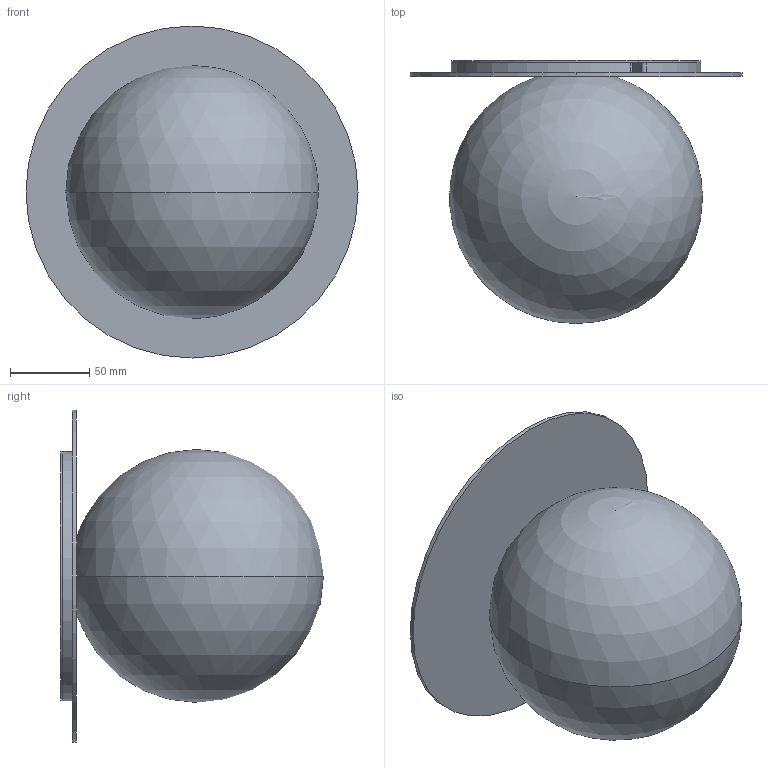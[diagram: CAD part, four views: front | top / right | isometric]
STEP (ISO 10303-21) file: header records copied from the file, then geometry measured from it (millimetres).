
FILE_DESCRIPTION (( 'STEP AP203' ), '1' );
FILE_NAME ('LTKI1601XXXXXXX-PER 3D.STEP', '2025-06-25T07:21:38', ( '' ), ( '' ), 'SwSTEP 2.0', 'SolidWorks 2024', '' );
FILE_SCHEMA (( 'CONFIG_CONTROL_DESIGN' ));
Length unit declared in the file: millimetre
Products named in the file (5): LTKI1601XXXXXXX-PER 3D; WSCM2C0200-0700-03_WSCM2C0200-0700-03; WSCM2C0217-0100-01; WSCM2C0218-0100-02; WSVAXXX0160BC7XX00
Assembly tree (4 placements, depth 2):
  LTKI1601XXXXXXX-PER 3D
    WSCM2C0200-0700-03_WSCM2C0200-0700-03
    WSVAXXX0160BC7XX00
    WSCM2C0217-0100-01
    WSCM2C0218-0100-02
Bounding box: 210 x 166.29 x 210 mm (x, y, z)
Volume: 450357.2 mm3; surface area: 303734.9 mm2
Topology: 4 solids, 4 shells, 110 faces, 303 edges, 196 vertices
Faces by surface type: cylinder 65, plane 27, cone 14, sphere 4
Entity records: 4056 total; most frequent: DIRECTION 675, CARTESIAN_POINT 600, ORIENTED_EDGE 586, EDGE_CURVE 293, AXIS2_PLACEMENT_3D 265, VERTEX_POINT 190, CIRCLE 148, LINE 145
